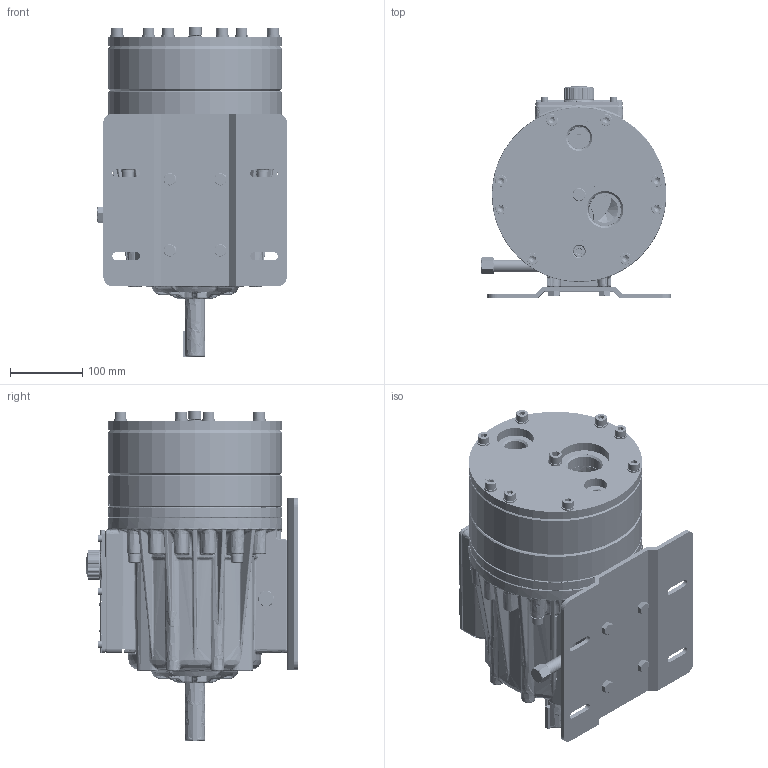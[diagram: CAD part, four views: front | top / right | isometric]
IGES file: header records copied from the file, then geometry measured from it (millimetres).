
Start section: SolidWorks IGES file using analytic representation for surfaces
Global section: file name: Q:\ENG\David Hughes\REQUESTED FROM CLIENTS\D25\H25-NON METALLIC.IGS; native system: SolidWorks 2018; preprocessor: SolidWorks 2018; author: dhughes; date: 220408.130517; units: inch
Bounding box: 262.01 x 293.87 x 456.27 mm (x, y, z)
Surface area: 1597343.1 mm2 (no closed solid volume)
Topology: 0 solids, 0 shells, 8528 faces, 108217 edges, 108119 vertices
Faces by surface type: revolution 4354, bspline 4174
